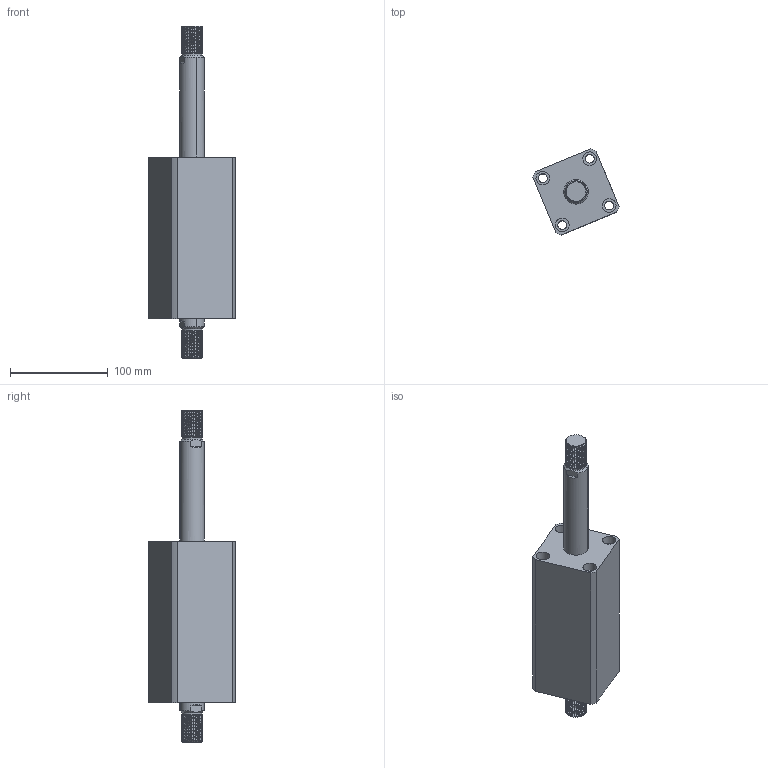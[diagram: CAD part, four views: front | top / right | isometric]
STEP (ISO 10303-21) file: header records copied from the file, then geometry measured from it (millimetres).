
FILE_DESCRIPTION (( 'STEP AP214' ), '1' );
FILE_NAME ('chtb-sw40x95w_asm.STEP', '2018-06-08T10:37:36', ( 'Windows' ), ( 'Microsoft' ), 'SwSTEP 2.0', 'SolidWorks 2015', '' );
FILE_SCHEMA (( 'AUTOMOTIVE_DESIGN' ));
Length unit declared in the file: millimetre
Products named in the file (4): CHTB-SW40X95NHSG; CHTB-SW40X95NBT; CHTB-SD40QG; chtb-sw40x95w_asm
Assembly tree (3 placements, depth 2):
  chtb-sw40x95w_asm
    CHTB-SD40QG
    CHTB-SW40X95NBT
    CHTB-SW40X95NHSG
Bounding box: 88.11 x 88.11 x 340 mm (x, y, z)
Volume: 753677.1 mm3; surface area: 135919.9 mm2
Topology: 3 solids, 3 shells, 254 faces, 680 edges, 452 vertices
Faces by surface type: cylinder 160, plane 46, bspline 18, cone 18, torus 12
Entity records: 17389 total; most frequent: CARTESIAN_POINT 11402, ORIENTED_EDGE 1348, DIRECTION 1094, EDGE_CURVE 674, VERTEX_POINT 452, AXIS2_PLACEMENT_3D 443, EDGE_LOOP 296, ADVANCED_FACE 254
